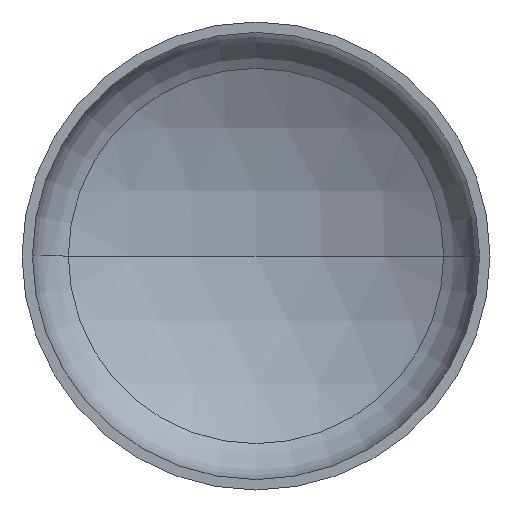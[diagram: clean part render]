
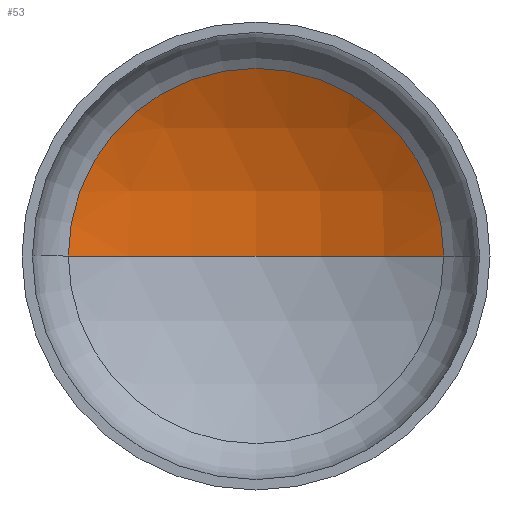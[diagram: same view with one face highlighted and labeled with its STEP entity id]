
A CAD part, front view. The second image highlights one B-rep face of the part: STEP entity #53.
In plain terms, the highlighted spherical face has radius 2080 mm.
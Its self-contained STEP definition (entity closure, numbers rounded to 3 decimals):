
#1 = CARTESIAN_POINT ( 'NONE',  ( 0., -1333.766, 0. ) ) ;
#21 = CARTESIAN_POINT ( 'NONE',  ( 0., 746.234, 0. ) ) ;
#32 = AXIS2_PLACEMENT_3D ( 'NONE', #168, #192, #176 ) ;
#38 = AXIS2_PLACEMENT_3D ( 'NONE', #1, #102, #341 ) ;
#41 = AXIS2_PLACEMENT_3D ( 'NONE', #163, #164, #319 ) ;
#53 = ADVANCED_FACE ( 'NONE', ( #196 ), #135, .F. ) ;
#57 = AXIS2_PLACEMENT_3D ( 'NONE', #227, #261, #255 ) ;
#58 = ORIENTED_EDGE ( 'NONE', *, *, #113, .T. ) ;
#99 = CIRCLE ( 'NONE', #38, 2080. ) ;
#102 = DIRECTION ( 'NONE',  ( 0., 0., -1. ) ) ;
#109 = EDGE_CURVE ( 'NONE', #385, #139, #338, .T. ) ;
#113 = EDGE_CURVE ( 'NONE', #154, #385, #99, .T. ) ;
#133 = EDGE_CURVE ( 'NONE', #154, #139, #178, .T. ) ;
#135 = SPHERICAL_SURFACE ( 'NONE', #57, 2080. ) ;
#139 = VERTEX_POINT ( 'NONE', #197 ) ;
#154 = VERTEX_POINT ( 'NONE', #21 ) ;
#162 = ORIENTED_EDGE ( 'NONE', *, *, #133, .F. ) ;
#163 = CARTESIAN_POINT ( 'NONE',  ( 0., 466.135, 0. ) ) ;
#164 = DIRECTION ( 'NONE',  ( 0., -1., 0. ) ) ;
#168 = CARTESIAN_POINT ( 'NONE',  ( 0., -1333.766, 0. ) ) ;
#176 = DIRECTION ( 'NONE',  ( 1., 0., 0. ) ) ;
#178 = CIRCLE ( 'NONE', #32, 2080. ) ;
#192 = DIRECTION ( 'NONE',  ( 0., 0., 1. ) ) ;
#196 = FACE_OUTER_BOUND ( 'NONE', #309, .T. ) ;
#197 = CARTESIAN_POINT ( 'NONE',  ( -1042.476, 466.135, 0. ) ) ;
#227 = CARTESIAN_POINT ( 'NONE',  ( 0., -1333.766, 0. ) ) ;
#247 = ORIENTED_EDGE ( 'NONE', *, *, #109, .T. ) ;
#255 = DIRECTION ( 'NONE',  ( -1., 0., 0. ) ) ;
#261 = DIRECTION ( 'NONE',  ( 0., 0., -1. ) ) ;
#309 = EDGE_LOOP ( 'NONE', ( #162, #58, #247 ) ) ;
#319 = DIRECTION ( 'NONE',  ( 1., 0., 0. ) ) ;
#323 = CARTESIAN_POINT ( 'NONE',  ( 1042.476, 466.135, 0. ) ) ;
#338 = CIRCLE ( 'NONE', #41, 1042.476 ) ;
#341 = DIRECTION ( 'NONE',  ( -1., 0., 0. ) ) ;
#385 = VERTEX_POINT ( 'NONE', #323 ) ;
